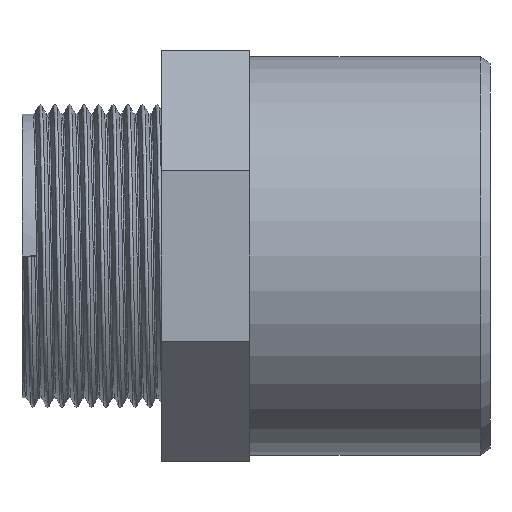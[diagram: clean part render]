
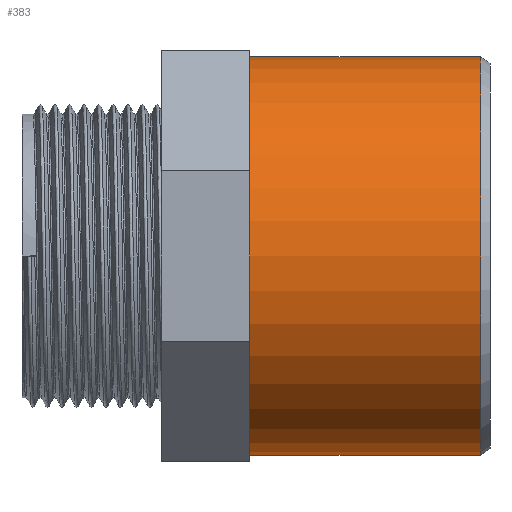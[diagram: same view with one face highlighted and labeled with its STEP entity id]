
A CAD part, left-side view. The second image highlights one B-rep face of the part: STEP entity #383.
In plain terms, the highlighted cylindrical face has radius 31.5 mm (diameter 63 mm), a full revolution.
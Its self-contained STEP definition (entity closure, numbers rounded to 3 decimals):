
#100=CYLINDRICAL_SURFACE('',#413,31.5);
#106=FACE_BOUND('',#145,.T.);
#117=FACE_OUTER_BOUND('',#144,.T.);
#144=EDGE_LOOP('',(#281));
#145=EDGE_LOOP('',(#282));
#179=CIRCLE('',#411,31.5);
#181=CIRCLE('',#414,31.5);
#192=VERTEX_POINT('',#543);
#194=VERTEX_POINT('',#548);
#228=EDGE_CURVE('',#192,#192,#179,.T.);
#230=EDGE_CURVE('',#194,#194,#181,.T.);
#281=ORIENTED_EDGE('',*,*,#230,.F.);
#282=ORIENTED_EDGE('',*,*,#228,.F.);
#383=ADVANCED_FACE('',(#117,#106),#100,.T.);
#411=AXIS2_PLACEMENT_3D('',#544,#448,#449);
#413=AXIS2_PLACEMENT_3D('',#547,#452,#453);
#414=AXIS2_PLACEMENT_3D('',#549,#454,#455);
#448=DIRECTION('center_axis',(0.,-1.,0.));
#449=DIRECTION('ref_axis',(-1.,0.,0.));
#452=DIRECTION('center_axis',(0.,-1.,0.));
#453=DIRECTION('ref_axis',(-1.,0.,0.));
#454=DIRECTION('center_axis',(0.,1.,0.));
#455=DIRECTION('ref_axis',(-1.,0.,0.));
#543=CARTESIAN_POINT('',(31.5,-43.5,0.));
#544=CARTESIAN_POINT('Origin',(0.,-43.5,0.));
#547=CARTESIAN_POINT('Origin',(0.,-7.,0.));
#548=CARTESIAN_POINT('',(31.5,-7.,0.));
#549=CARTESIAN_POINT('Origin',(0.,-7.,0.));
